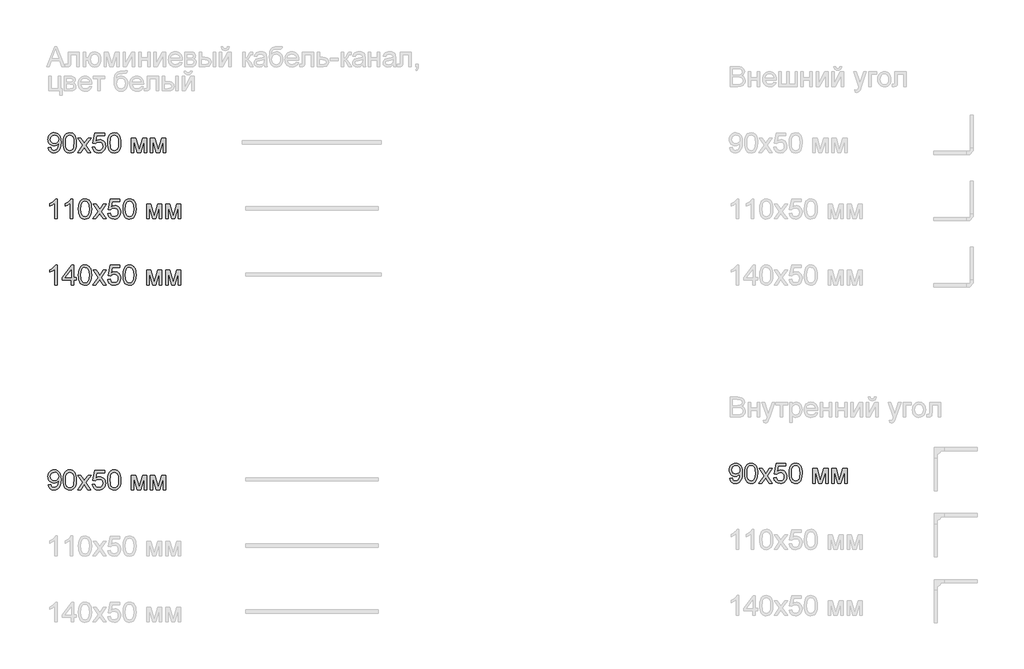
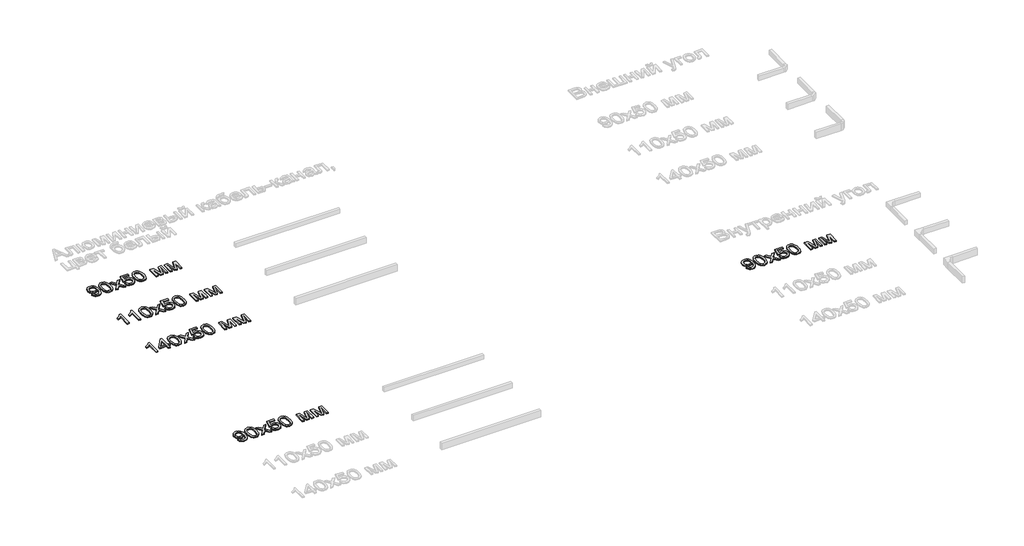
# One storey, part 87 of 168: 5 proxies.
"""IFC4 building model written with IfcOpenShell, lengths in millimetres."""

from ifc_helpers import new_model, si_unit, origin, origin_with_axes, place, context, project, spatial, polyline, outline, extrude, element, save

model = new_model("IFC4")

# Units and contexts
model_context = context("Model", 3, world=origin())
ifc_project = project(units=[si_unit("LENGTHUNIT", "METRE", prefix="MILLI")], contexts=[model_context])

# Site, building, storey
site = spatial("IfcSite", under=ifc_project)
building = spatial("IfcBuilding", under=site)
storey = spatial("IfcBuildingStorey", under=building, Name="Этаж 01", Elevation=0.0)

# Proxies
placement = place(None, origin())
element("IfcBuildingElementProxy", 1, Name="300 мм Arial 2", ObjectType="300 мм Arial 2", at=placement, inside=storey, context=model_context, shape_type="SweptSolid", body=[
    extrude(outline(polyline([(769.3999525, -8073.063449), (807.0710688, -8068.3545594), (813.5090037, -8089.7377004), (823.9936406, -8104.2966303), (838.267462, -8112.6567487), (856.0729505, -8115.4434548), (872.0482262, -8113.6500301), (886.5703679, -8108.2697559), (898.6368974, -8099.8912435), (907.2453361, -8089.1031039), (919.5693829, -8056.3616064), (925.0140364, -8012.6572253), (924.7933072, -8005.2995854), (911.7426935, -8021.2288758), (894.6637718, -8033.8472283), (874.7889471, -8042.0693909), (853.3506238, -8044.8101117), (835.455464, -8043.1362486), (818.9996425, -8038.1146594), (803.9831593, -8029.745344), (790.4060144, -8018.0283025), (779.1557231, -8003.5751386), (771.1198008, -7986.9974562), (766.2982474, -7968.2952553), (764.6910629, -7947.4685358), (766.3764223, -7925.9474391), (771.4325005, -7906.6336343), (779.8592975, -7889.5271216), (791.6568132, -7874.6279008), (805.9927147, -7862.5567728), (822.0346689, -7853.9345385), (839.782676, -7848.761198), (859.2367357, -7847.0367511), (887.3337231, -7850.9730885), (912.9107188, -7862.7821005), (934.3030568, -7881.8751761), (949.8460711, -7907.6637039), (959.3098354, -7943.3114693), (962.4644236, -7991.9822572), (959.3190325, -8043.5869041), (949.8828593, -8083.4745094), (934.2386775, -8113.447695), (912.4692604, -8135.3090825), (885.5127072, -8148.663199), (854.307117, -8153.1145711), (822.0990483, -8147.8630556), (796.4024909, -8132.1085092), (778.4314555, -8106.8442132), (769.3999525, -8073.063449)]), holes=[polyline([(924.7933072, -7946.585619), (920.7282112, -7921.0546085), (908.5329231, -7901.40971), (889.6053944, -7888.8833281), (865.3435768, -7884.7078674), (840.1804484, -7889.2052248), (820.020515, -7902.697297), (806.7767632, -7923.344674), (802.3621793, -7949.3079458), (806.5376399, -7972.585679), (819.0640218, -7991.0625522), (838.7273145, -8003.1198846), (864.3135072, -8007.1389954), (888.3821868, -8003.1198846), (907.7603709, -7991.0625522), (920.5350732, -7971.9050973), (924.7933072, -7946.585619)])]), origin_with_axes(), (0.0, 0.0, 1.0), 20.0),
    extrude(outline(polyline([(995.4266503, -8000.1492375), (998.1949623, -7951.9107109), (1006.4998984, -7913.4394512), (1020.258685, -7884.1468474), (1039.3885487, -7863.4442881), (1064.0274454, -7851.1386354), (1094.3133306, -7847.0367511), (1117.5266845, -7849.4647723), (1138.3120172, -7856.7488358), (1155.6944415, -7868.6038331), (1168.6990701, -7884.7446556), (1178.5215193, -7905.0333477), (1186.3574058, -7929.3319534), (1191.4893597, -7960.1880558), (1193.2000109, -8000.1492375), (1190.4592901, -8048.1118526), (1182.2371275, -8086.4911418), (1168.5611143, -8115.8113368), (1149.4588417, -8136.5966695), (1124.7647628, -8148.9850957), (1094.3133306, -8153.1145711), (1073.5647861, -8151.3211464), (1055.1706863, -8145.9408722), (1039.1310313, -8136.9737486), (1025.4458211, -8124.4197755), (1012.3124339, -8101.7260549), (1002.931443, -8073.4497251), (997.3028485, -8039.5907859), (995.4266503, -8000.1492375)]), holes=[polyline([(1033.0977666, -8000.0756611), (1037.5123506, -8059.3322535), (1043.0305805, -8079.6002522), (1050.7561024, -8093.6280525), (1070.4745773, -8109.9896042), (1094.3133306, -8115.4434548), (1118.1520839, -8109.9712101), (1137.8705589, -8093.5544761), (1145.5960808, -8079.5036831), (1151.1143107, -8059.240283), (1155.5288946, -8000.0756611), (1151.2614635, -7942.152641), (1145.9271745, -7921.9513209), (1138.45917, -7907.5901275), (1118.7774833, -7890.4284325), (1093.8718722, -7884.7078674), (1070.2906363, -7889.7478508), (1051.3447136, -7904.8678008), (1043.3616743, -7920.5027856), (1037.6595034, -7941.5824239), (1033.0977666, -8000.0756611)])]), origin_with_axes(), (0.0, 0.0, 1.0), 20.0),
    extrude(outline(polyline([(1212.0355691, -8148.4056816), (1292.5281496, -8037.1581662), (1216.7444586, -7927.0878733), (1262.0675204, -7927.0878733), (1298.6349907, -7980.0628806), (1315.7047153, -8005.0788562), (1330.4935715, -7984.6246173), (1372.1378134, -7927.0878733), (1417.4608752, -7927.0878733), (1337.8512114, -8037.1581662), (1414.5178192, -8148.4056816), (1369.1947574, -8148.4056816), (1323.0623552, -8081.5247348), (1314.6010693, -8069.3110526), (1257.3586309, -8148.4056816), (1212.0355691, -8148.4056816)])), origin_with_axes(), (0.0, 0.0, 1.0), 20.0),
    extrude(outline(polyline([(1438.0622669, -8068.3545594), (1475.7333832, -8063.6456699), (1482.6495647, -8086.2612155), (1494.7160942, -8102.4572204), (1511.8777893, -8112.1968962), (1534.0794677, -8115.4434548), (1561.0820061, -8110.9277033), (1581.3155158, -8097.3804488), (1593.9522624, -8076.3651899), (1598.1645112, -8049.4454249), (1594.2189768, -8024.0983554), (1582.3823736, -8004.7109743), (1562.5627311, -7992.4053215), (1534.6680789, -7988.3034373), (1516.3935407, -7989.9405121), (1501.5954875, -7994.8517368), (1480.4422728, -8011.847885), (1442.7711565, -8007.1389954), (1475.7333832, -7851.7456407), (1621.7089589, -7851.7456407), (1621.7089589, -7889.416757), (1506.1940124, -7889.416757), (1490.080781, -7972.4109351), (1516.991349, -7956.0769745), (1545.1895039, -7950.632321), (1563.5353192, -7952.3199796), (1580.3866138, -7957.3829556), (1595.7433878, -7965.8212488), (1609.6056413, -7977.6348594), (1621.0812603, -7992.1018189), (1629.278131, -8008.5001588), (1634.1962534, -8026.8298792), (1635.8356275, -8047.0909801), (1629.9311215, -8084.7620964), (1622.550489, -8101.5559095), (1612.2176034, -8116.9885592), (1596.5642245, -8132.7936894), (1578.2988835, -8144.0830681), (1557.4215803, -8150.8566954), (1533.9323149, -8153.1145711), (1496.9325832, -8147.3112326), (1481.2539124, -8140.0570595), (1467.4560383, -8129.9012172), (1455.9758208, -8117.3495434), (1447.2501197, -8102.9078758), (1438.0622669, -8068.3545594)])), origin_with_axes(), (0.0, 0.0, 1.0), 20.0),
    extrude(outline(polyline([(1668.7978543, -8000.1492375), (1671.5661663, -7951.9107109), (1679.8711023, -7913.4394512), (1693.629889, -7884.1468474), (1712.7597527, -7863.4442881), (1737.3986493, -7851.1386354), (1767.6845346, -7847.0367511), (1790.8978885, -7849.4647723), (1811.6832212, -7856.7488358), (1829.0656455, -7868.6038331), (1842.070274, -7884.7446556), (1851.8927233, -7905.0333477), (1859.7286098, -7929.3319534), (1864.8605636, -7960.1880558), (1866.5712149, -8000.1492375), (1863.830494, -8048.1118526), (1855.6083314, -8086.4911418), (1841.9323183, -8115.8113368), (1822.8300457, -8136.5966695), (1798.1359667, -8148.9850957), (1767.6845346, -8153.1145711), (1746.9359901, -8151.3211464), (1728.5418903, -8145.9408722), (1712.5022353, -8136.9737486), (1698.8170251, -8124.4197755), (1685.6836379, -8101.7260549), (1676.302647, -8073.4497251), (1670.6740525, -8039.5907859), (1668.7978543, -8000.1492375)]), holes=[polyline([(1706.4689706, -8000.0756611), (1710.8835545, -8059.3322535), (1716.4017845, -8079.6002522), (1724.1273064, -8093.6280525), (1743.8457813, -8109.9896042), (1767.6845346, -8115.4434548), (1791.5232879, -8109.9712101), (1811.2417628, -8093.5544761), (1818.9672847, -8079.5036831), (1824.4855147, -8059.240283), (1828.9000986, -8000.0756611), (1824.6326675, -7942.152641), (1819.2983785, -7921.9513209), (1811.830374, -7907.5901275), (1792.1486873, -7890.4284325), (1767.2430762, -7884.7078674), (1743.6618403, -7889.7478508), (1724.7159176, -7904.8678008), (1716.7328783, -7920.5027856), (1711.0307073, -7941.5824239), (1706.4689706, -8000.0756611)])]), origin_with_axes(), (0.0, 0.0, 1.0), 20.0),
    extrude(outline(polyline([(2026.6734592, -7927.0878733), (2091.4942668, -7927.0878733), (2141.4526417, -8104.2598421), (2195.3105658, -7927.0878733), (2257.4090466, -7927.0878733), (2257.4090466, -8148.4056816), (2219.7379303, -8148.4056816), (2219.7379303, -7970.2036431), (2165.5857006, -8148.4056816), (2116.1423604, -8148.4056816), (2064.3445755, -7961.6687808), (2064.3445755, -8148.4056816), (2026.6734592, -8148.4056816), (2026.6734592, -7927.0878733)])), origin_with_axes(), (0.0, 0.0, 1.0), 20.0),
    extrude(outline(polyline([(2313.915721, -7927.0878733), (2378.7365286, -7927.0878733), (2428.6949035, -8104.2598421), (2482.5528276, -7927.0878733), (2544.6513084, -7927.0878733), (2544.6513084, -8148.4056816), (2506.9801921, -8148.4056816), (2506.9801921, -7970.2036431), (2452.8279624, -8148.4056816), (2403.3846223, -8148.4056816), (2351.5868373, -7961.6687808), (2351.5868373, -8148.4056816), (2313.915721, -8148.4056816), (2313.915721, -7927.0878733)])), origin_with_axes(), (0.0, 0.0, 1.0), 20.0),
])
element("IfcBuildingElementProxy", 2, Name="300 мм Arial 2", ObjectType="300 мм Arial 2", at=placement, inside=storey, context=model_context, shape_type="SweptSolid", body=[
    extrude(outline(polyline([(905.9577491, -9148.4056816), (868.2866328, -9148.4056816), (868.2866328, -8913.5498158), (832.6020793, -8938.9704617), (792.9444002, -8957.9899609), (792.9444002, -8922.3789837), (822.5313096, -8906.2841464), (848.1634877, -8887.1358886), (868.3694062, -8866.7736202), (881.6775374, -8847.0367511), (905.9577491, -8847.0367511), (905.9577491, -9148.4056816)])), origin_with_axes(), (0.0, 0.0, 1.0), 20.0),
    extrude(outline(polyline([(1136.6933365, -9148.4056816), (1099.0222202, -9148.4056816), (1099.0222202, -8913.5498158), (1063.3376666, -8938.9704617), (1023.6799876, -8957.9899609), (1023.6799876, -8922.3789837), (1053.266897, -8906.2841464), (1078.899075, -8887.1358886), (1099.1049936, -8866.7736202), (1112.4131248, -8847.0367511), (1136.6933365, -8847.0367511), (1136.6933365, -9148.4056816)])), origin_with_axes(), (0.0, 0.0, 1.0), 20.0),
    extrude(outline(polyline([(1226.1622377, -9000.1492375), (1228.9305497, -8951.9107109), (1237.2354858, -8913.4394512), (1250.9942724, -8884.1468474), (1270.1241361, -8863.4442881), (1294.7630327, -8851.1386354), (1325.048918, -8847.0367511), (1348.2622719, -8849.4647723), (1369.0476046, -8856.7488358), (1386.4300289, -8868.6038331), (1399.4346574, -8884.7446556), (1409.2571067, -8905.0333477), (1417.0929932, -8929.3319534), (1422.224947, -8960.1880558), (1423.9355983, -9000.1492375), (1421.1948774, -9048.1118526), (1412.9727148, -9086.4911418), (1399.2967017, -9115.8113368), (1380.1944291, -9136.5966695), (1355.5003502, -9148.9850957), (1325.048918, -9153.1145711), (1304.3003735, -9151.3211464), (1285.9062737, -9145.9408722), (1269.8666187, -9136.9737486), (1256.1814085, -9124.4197755), (1243.0480213, -9101.7260549), (1233.6670304, -9073.4497251), (1228.0384359, -9039.5907859), (1226.1622377, -9000.1492375)]), holes=[polyline([(1263.833354, -9000.0756611), (1268.2479379, -9059.3322535), (1273.7661679, -9079.6002522), (1281.4916898, -9093.6280525), (1301.2101647, -9109.9896042), (1325.048918, -9115.4434548), (1348.8876713, -9109.9712101), (1368.6061462, -9093.5544761), (1376.3316681, -9079.5036831), (1381.8498981, -9059.240283), (1386.264482, -9000.0756611), (1381.9970509, -8942.152641), (1376.6627619, -8921.9513209), (1369.1947574, -8907.5901275), (1349.5130707, -8890.4284325), (1324.6074596, -8884.7078674), (1301.0262237, -8889.7478508), (1282.080301, -8904.8678008), (1274.0972617, -8920.5027856), (1268.3950907, -8941.5824239), (1263.833354, -9000.0756611)])]), origin_with_axes(), (0.0, 0.0, 1.0), 20.0),
    extrude(outline(polyline([(1442.7711565, -9148.4056816), (1523.263737, -9037.1581662), (1447.480046, -8927.0878733), (1492.8031078, -8927.0878733), (1529.3705781, -8980.0628806), (1546.4403027, -9005.0788562), (1561.2291589, -8984.6246173), (1602.8734008, -8927.0878733), (1648.1964626, -8927.0878733), (1568.5867988, -9037.1581662), (1645.2534066, -9148.4056816), (1599.9303448, -9148.4056816), (1553.7979426, -9081.5247348), (1545.3366567, -9069.3110526), (1488.0942183, -9148.4056816), (1442.7711565, -9148.4056816)])), origin_with_axes(), (0.0, 0.0, 1.0), 20.0),
    extrude(outline(polyline([(1668.7978543, -9068.3545594), (1706.4689706, -9063.6456699), (1713.3851521, -9086.2612155), (1725.4516816, -9102.4572204), (1742.6133766, -9112.1968962), (1764.815055, -9115.4434548), (1791.8175935, -9110.9277033), (1812.0511032, -9097.3804488), (1824.6878498, -9076.3651899), (1828.9000986, -9049.4454249), (1824.9545642, -9024.0983554), (1813.117961, -9004.7109743), (1793.2983185, -8992.4053215), (1765.4036662, -8988.3034373), (1747.1291281, -8989.9405121), (1732.3310749, -8994.8517368), (1711.1778601, -9011.847885), (1673.5067438, -9007.1389954), (1706.4689706, -8851.7456407), (1852.4445463, -8851.7456407), (1852.4445463, -8889.416757), (1736.9295998, -8889.416757), (1720.8163684, -8972.4109351), (1747.7269364, -8956.0769745), (1775.9250913, -8950.632321), (1794.2709065, -8952.3199796), (1811.1222012, -8957.3829556), (1826.4789752, -8965.8212488), (1840.3412286, -8977.6348594), (1851.8168476, -8992.1018189), (1860.0137183, -9008.5001588), (1864.9318408, -9026.8298792), (1866.5712149, -9047.0909801), (1860.6667089, -9084.7620964), (1853.2860764, -9101.5559095), (1842.9531908, -9116.9885592), (1827.2998119, -9132.7936894), (1809.0344709, -9144.0830681), (1788.1571676, -9150.8566954), (1764.6679022, -9153.1145711), (1727.6681706, -9147.3112326), (1711.9894998, -9140.0570595), (1698.1916257, -9129.9012172), (1686.7114082, -9117.3495434), (1677.9857071, -9102.9078758), (1668.7978543, -9068.3545594)])), origin_with_axes(), (0.0, 0.0, 1.0), 20.0),
    extrude(outline(polyline([(1899.5334417, -9000.1492375), (1902.3017537, -8951.9107109), (1910.6066897, -8913.4394512), (1924.3654763, -8884.1468474), (1943.4953401, -8863.4442881), (1968.1342367, -8851.1386354), (1998.420122, -8847.0367511), (2021.6334759, -8849.4647723), (2042.4188086, -8856.7488358), (2059.8012329, -8868.6038331), (2072.8058614, -8884.7446556), (2082.6283107, -8905.0333477), (2090.4641972, -8929.3319534), (2095.596151, -8960.1880558), (2097.3068023, -9000.1492375), (2094.5660814, -9048.1118526), (2086.3439188, -9086.4911418), (2072.6679056, -9115.8113368), (2053.565633, -9136.5966695), (2028.8715541, -9148.9850957), (1998.420122, -9153.1145711), (1977.6715774, -9151.3211464), (1959.2774777, -9145.9408722), (1943.2378227, -9136.9737486), (1929.5526125, -9124.4197755), (1916.4192252, -9101.7260549), (1907.0382344, -9073.4497251), (1901.4096398, -9039.5907859), (1899.5334417, -9000.1492375)]), holes=[polyline([(1937.204558, -9000.0756611), (1941.6191419, -9059.3322535), (1947.1373718, -9079.6002522), (1954.8628937, -9093.6280525), (1974.5813687, -9109.9896042), (1998.420122, -9115.4434548), (2022.2588753, -9109.9712101), (2041.9773502, -9093.5544761), (2049.7028721, -9079.5036831), (2055.221102, -9059.240283), (2059.635686, -9000.0756611), (2055.3682548, -8942.152641), (2050.0339659, -8921.9513209), (2042.5659614, -8907.5901275), (2022.8842747, -8890.4284325), (1997.9786636, -8884.7078674), (1974.3974277, -8889.7478508), (1955.4515049, -8904.8678008), (1947.4684656, -8920.5027856), (1941.7662947, -8941.5824239), (1937.204558, -9000.0756611)])]), origin_with_axes(), (0.0, 0.0, 1.0), 20.0),
    extrude(outline(polyline([(2257.4090466, -8927.0878733), (2322.2298541, -8927.0878733), (2372.1882291, -9104.2598421), (2426.0461532, -8927.0878733), (2488.144634, -8927.0878733), (2488.144634, -9148.4056816), (2450.4735176, -9148.4056816), (2450.4735176, -8970.2036431), (2396.321288, -9148.4056816), (2346.8779478, -9148.4056816), (2295.0801629, -8961.6687808), (2295.0801629, -9148.4056816), (2257.4090466, -9148.4056816), (2257.4090466, -8927.0878733)])), origin_with_axes(), (0.0, 0.0, 1.0), 20.0),
    extrude(outline(polyline([(2544.6513084, -8927.0878733), (2609.472116, -8927.0878733), (2659.4304909, -9104.2598421), (2713.288415, -8927.0878733), (2775.3868958, -8927.0878733), (2775.3868958, -9148.4056816), (2737.7157795, -9148.4056816), (2737.7157795, -8970.2036431), (2683.5635498, -9148.4056816), (2634.1202096, -9148.4056816), (2582.3224247, -8961.6687808), (2582.3224247, -9148.4056816), (2544.6513084, -9148.4056816), (2544.6513084, -8927.0878733)])), origin_with_axes(), (0.0, 0.0, 1.0), 20.0),
])
element("IfcBuildingElementProxy", 3, Name="300 мм Arial 2", ObjectType="300 мм Arial 2", at=placement, inside=storey, context=model_context, shape_type="SweptSolid", body=[
    extrude(outline(polyline([(905.9577491, -10148.4056816), (868.2866328, -10148.4056816), (868.2866328, -9913.5498158), (832.6020793, -9938.9704617), (792.9444002, -9957.9899609), (792.9444002, -9922.3789837), (822.5313096, -9906.2841464), (848.1634877, -9887.1358886), (868.3694062, -9866.7736202), (881.6775374, -9847.0367511), (905.9577491, -9847.0367511), (905.9577491, -10148.4056816)])), origin_with_axes(), (0.0, 0.0, 1.0), 20.0),
    extrude(outline(polyline([(1117.8577783, -10148.4056816), (1117.8577783, -10077.7723385), (981.2999817, -10077.7723385), (981.2999817, -10040.1012222), (1127.2755574, -9851.7456407), (1155.5288946, -9851.7456407), (1155.5288946, -10040.1012222), (1193.2000109, -10040.1012222), (1193.2000109, -10077.7723385), (1155.5288946, -10077.7723385), (1155.5288946, -10148.4056816), (1117.8577783, -10148.4056816)]), holes=[polyline([(1117.8577783, -10040.1012222), (1117.8577783, -9923.7033589), (1027.6531131, -10040.1012222), (1117.8577783, -10040.1012222)])]), origin_with_axes(), (0.0, 0.0, 1.0), 20.0),
    extrude(outline(polyline([(1226.1622377, -10000.1492375), (1228.9305497, -9951.9107109), (1237.2354858, -9913.4394512), (1250.9942724, -9884.1468474), (1270.1241361, -9863.4442881), (1294.7630327, -9851.1386354), (1325.048918, -9847.0367511), (1348.2622719, -9849.4647723), (1369.0476046, -9856.7488358), (1386.4300289, -9868.6038331), (1399.4346574, -9884.7446556), (1409.2571067, -9905.0333477), (1417.0929932, -9929.3319534), (1422.224947, -9960.1880558), (1423.9355983, -10000.1492375), (1421.1948774, -10048.1118526), (1412.9727148, -10086.4911418), (1399.2967017, -10115.8113368), (1380.1944291, -10136.5966695), (1355.5003502, -10148.9850957), (1325.048918, -10153.1145711), (1304.3003735, -10151.3211464), (1285.9062737, -10145.9408722), (1269.8666187, -10136.9737486), (1256.1814085, -10124.4197755), (1243.0480213, -10101.7260549), (1233.6670304, -10073.4497251), (1228.0384359, -10039.5907859), (1226.1622377, -10000.1492375)]), holes=[polyline([(1263.833354, -10000.0756611), (1268.2479379, -10059.3322535), (1273.7661679, -10079.6002522), (1281.4916898, -10093.6280525), (1301.2101647, -10109.9896042), (1325.048918, -10115.4434548), (1348.8876713, -10109.9712101), (1368.6061462, -10093.5544761), (1376.3316681, -10079.5036831), (1381.8498981, -10059.240283), (1386.264482, -10000.0756611), (1381.9970509, -9942.152641), (1376.6627619, -9921.9513209), (1369.1947574, -9907.5901275), (1349.5130707, -9890.4284325), (1324.6074596, -9884.7078674), (1301.0262237, -9889.7478508), (1282.080301, -9904.8678008), (1274.0972617, -9920.5027856), (1268.3950907, -9941.5824239), (1263.833354, -10000.0756611)])]), origin_with_axes(), (0.0, 0.0, 1.0), 20.0),
    extrude(outline(polyline([(1442.7711565, -10148.4056816), (1523.263737, -10037.1581662), (1447.480046, -9927.0878733), (1492.8031078, -9927.0878733), (1529.3705781, -9980.0628806), (1546.4403027, -10005.0788562), (1561.2291589, -9984.6246173), (1602.8734008, -9927.0878733), (1648.1964626, -9927.0878733), (1568.5867988, -10037.1581662), (1645.2534066, -10148.4056816), (1599.9303448, -10148.4056816), (1553.7979426, -10081.5247348), (1545.3366567, -10069.3110526), (1488.0942183, -10148.4056816), (1442.7711565, -10148.4056816)])), origin_with_axes(), (0.0, 0.0, 1.0), 20.0),
    extrude(outline(polyline([(1668.7978543, -10068.3545594), (1706.4689706, -10063.6456699), (1713.3851521, -10086.2612155), (1725.4516816, -10102.4572204), (1742.6133766, -10112.1968962), (1764.815055, -10115.4434548), (1791.8175935, -10110.9277033), (1812.0511032, -10097.3804488), (1824.6878498, -10076.3651899), (1828.9000986, -10049.4454249), (1824.9545642, -10024.0983554), (1813.117961, -10004.7109743), (1793.2983185, -9992.4053215), (1765.4036662, -9988.3034373), (1747.1291281, -9989.9405121), (1732.3310749, -9994.8517368), (1711.1778601, -10011.847885), (1673.5067438, -10007.1389954), (1706.4689706, -9851.7456407), (1852.4445463, -9851.7456407), (1852.4445463, -9889.416757), (1736.9295998, -9889.416757), (1720.8163684, -9972.4109351), (1747.7269364, -9956.0769745), (1775.9250913, -9950.632321), (1794.2709065, -9952.3199796), (1811.1222012, -9957.3829556), (1826.4789752, -9965.8212488), (1840.3412286, -9977.6348594), (1851.8168476, -9992.1018189), (1860.0137183, -10008.5001588), (1864.9318408, -10026.8298792), (1866.5712149, -10047.0909801), (1860.6667089, -10084.7620964), (1853.2860764, -10101.5559095), (1842.9531908, -10116.9885592), (1827.2998119, -10132.7936894), (1809.0344709, -10144.0830681), (1788.1571676, -10150.8566954), (1764.6679022, -10153.1145711), (1727.6681706, -10147.3112326), (1711.9894998, -10140.0570595), (1698.1916257, -10129.9012172), (1686.7114082, -10117.3495434), (1677.9857071, -10102.9078758), (1668.7978543, -10068.3545594)])), origin_with_axes(), (0.0, 0.0, 1.0), 20.0),
    extrude(outline(polyline([(1899.5334417, -10000.1492375), (1902.3017537, -9951.9107109), (1910.6066897, -9913.4394512), (1924.3654763, -9884.1468474), (1943.4953401, -9863.4442881), (1968.1342367, -9851.1386354), (1998.420122, -9847.0367511), (2021.6334759, -9849.4647723), (2042.4188086, -9856.7488358), (2059.8012329, -9868.6038331), (2072.8058614, -9884.7446556), (2082.6283107, -9905.0333477), (2090.4641972, -9929.3319534), (2095.596151, -9960.1880558), (2097.3068023, -10000.1492375), (2094.5660814, -10048.1118526), (2086.3439188, -10086.4911418), (2072.6679056, -10115.8113368), (2053.565633, -10136.5966695), (2028.8715541, -10148.9850957), (1998.420122, -10153.1145711), (1977.6715774, -10151.3211464), (1959.2774777, -10145.9408722), (1943.2378227, -10136.9737486), (1929.5526125, -10124.4197755), (1916.4192252, -10101.7260549), (1907.0382344, -10073.4497251), (1901.4096398, -10039.5907859), (1899.5334417, -10000.1492375)]), holes=[polyline([(1937.204558, -10000.0756611), (1941.6191419, -10059.3322535), (1947.1373718, -10079.6002522), (1954.8628937, -10093.6280525), (1974.5813687, -10109.9896042), (1998.420122, -10115.4434548), (2022.2588753, -10109.9712101), (2041.9773502, -10093.5544761), (2049.7028721, -10079.5036831), (2055.221102, -10059.240283), (2059.635686, -10000.0756611), (2055.3682548, -9942.152641), (2050.0339659, -9921.9513209), (2042.5659614, -9907.5901275), (2022.8842747, -9890.4284325), (1997.9786636, -9884.7078674), (1974.3974277, -9889.7478508), (1955.4515049, -9904.8678008), (1947.4684656, -9920.5027856), (1941.7662947, -9941.5824239), (1937.204558, -10000.0756611)])]), origin_with_axes(), (0.0, 0.0, 1.0), 20.0),
    extrude(outline(polyline([(2257.4090466, -9927.0878733), (2322.2298541, -9927.0878733), (2372.1882291, -10104.2598421), (2426.0461532, -9927.0878733), (2488.144634, -9927.0878733), (2488.144634, -10148.4056816), (2450.4735176, -10148.4056816), (2450.4735176, -9970.2036431), (2396.321288, -10148.4056816), (2346.8779478, -10148.4056816), (2295.0801629, -9961.6687808), (2295.0801629, -10148.4056816), (2257.4090466, -10148.4056816), (2257.4090466, -9927.0878733)])), origin_with_axes(), (0.0, 0.0, 1.0), 20.0),
    extrude(outline(polyline([(2544.6513084, -9927.0878733), (2609.472116, -9927.0878733), (2659.4304909, -10104.2598421), (2713.288415, -9927.0878733), (2775.3868958, -9927.0878733), (2775.3868958, -10148.4056816), (2737.7157795, -10148.4056816), (2737.7157795, -9970.2036431), (2683.5635498, -10148.4056816), (2634.1202096, -10148.4056816), (2582.3224247, -9961.6687808), (2582.3224247, -10148.4056816), (2544.6513084, -10148.4056816), (2544.6513084, -9927.0878733)])), origin_with_axes(), (0.0, 0.0, 1.0), 20.0),
])
element("IfcBuildingElementProxy", 4, Name="300 мм Arial 2", ObjectType="300 мм Arial 2", at=placement, inside=storey, context=model_context, shape_type="SweptSolid", body=[
    extrude(outline(polyline([(769.3999525, -13173.063449), (807.0710688, -13168.3545594), (813.5090037, -13189.7377004), (823.9936406, -13204.2966303), (838.267462, -13212.6567487), (856.0729505, -13215.4434548), (872.0482262, -13213.6500301), (886.5703679, -13208.2697559), (898.6368974, -13199.8912435), (907.2453361, -13189.1031039), (919.5693829, -13156.3616064), (925.0140364, -13112.6572253), (924.7933072, -13105.2995854), (911.7426935, -13121.2288758), (894.6637718, -13133.8472283), (874.7889471, -13142.0693909), (853.3506238, -13144.8101117), (835.455464, -13143.1362486), (818.9996425, -13138.1146594), (803.9831593, -13129.745344), (790.4060144, -13118.0283025), (779.1557231, -13103.5751386), (771.1198008, -13086.9974562), (766.2982474, -13068.2952553), (764.6910629, -13047.4685358), (766.3764223, -13025.9474391), (771.4325005, -13006.6336343), (779.8592975, -12989.5271216), (791.6568132, -12974.6279008), (805.9927147, -12962.5567728), (822.0346689, -12953.9345385), (839.782676, -12948.761198), (859.2367357, -12947.0367511), (887.3337231, -12950.9730885), (912.9107188, -12962.7821005), (934.3030568, -12981.8751761), (949.8460711, -13007.6637039), (959.3098354, -13043.3114693), (962.4644236, -13091.9822572), (959.3190325, -13143.5869041), (949.8828593, -13183.4745094), (934.2386775, -13213.447695), (912.4692604, -13235.3090825), (885.5127072, -13248.663199), (854.307117, -13253.1145711), (822.0990483, -13247.8630556), (796.4024909, -13232.1085092), (778.4314555, -13206.8442132), (769.3999525, -13173.063449)]), holes=[polyline([(924.7933072, -13046.585619), (920.7282112, -13021.0546085), (908.5329231, -13001.40971), (889.6053944, -12988.8833281), (865.3435768, -12984.7078674), (840.1804484, -12989.2052248), (820.020515, -13002.697297), (806.7767632, -13023.344674), (802.3621793, -13049.3079458), (806.5376399, -13072.585679), (819.0640218, -13091.0625522), (838.7273145, -13103.1198846), (864.3135072, -13107.1389954), (888.3821868, -13103.1198846), (907.7603709, -13091.0625522), (920.5350732, -13071.9050973), (924.7933072, -13046.585619)])]), origin_with_axes(), (0.0, 0.0, 1.0), 20.0),
    extrude(outline(polyline([(995.4266503, -13100.1492375), (998.1949623, -13051.9107109), (1006.4998984, -13013.4394512), (1020.258685, -12984.1468474), (1039.3885487, -12963.4442881), (1064.0274454, -12951.1386354), (1094.3133306, -12947.0367511), (1117.5266845, -12949.4647723), (1138.3120172, -12956.7488358), (1155.6944415, -12968.6038331), (1168.6990701, -12984.7446556), (1178.5215193, -13005.0333477), (1186.3574058, -13029.3319534), (1191.4893597, -13060.1880558), (1193.2000109, -13100.1492375), (1190.4592901, -13148.1118526), (1182.2371275, -13186.4911418), (1168.5611143, -13215.8113368), (1149.4588417, -13236.5966695), (1124.7647628, -13248.9850957), (1094.3133306, -13253.1145711), (1073.5647861, -13251.3211464), (1055.1706863, -13245.9408722), (1039.1310313, -13236.9737486), (1025.4458211, -13224.4197755), (1012.3124339, -13201.7260549), (1002.931443, -13173.4497251), (997.3028485, -13139.5907859), (995.4266503, -13100.1492375)]), holes=[polyline([(1033.0977666, -13100.0756611), (1037.5123506, -13159.3322535), (1043.0305805, -13179.6002522), (1050.7561024, -13193.6280525), (1070.4745773, -13209.9896042), (1094.3133306, -13215.4434548), (1118.1520839, -13209.9712101), (1137.8705589, -13193.5544761), (1145.5960808, -13179.5036831), (1151.1143107, -13159.240283), (1155.5288946, -13100.0756611), (1151.2614635, -13042.152641), (1145.9271745, -13021.9513209), (1138.45917, -13007.5901275), (1118.7774833, -12990.4284325), (1093.8718722, -12984.7078674), (1070.2906363, -12989.7478508), (1051.3447136, -13004.8678008), (1043.3616743, -13020.5027856), (1037.6595034, -13041.5824239), (1033.0977666, -13100.0756611)])]), origin_with_axes(), (0.0, 0.0, 1.0), 20.0),
    extrude(outline(polyline([(1212.0355691, -13248.4056816), (1292.5281496, -13137.1581662), (1216.7444586, -13027.0878733), (1262.0675204, -13027.0878733), (1298.6349907, -13080.0628806), (1315.7047153, -13105.0788562), (1330.4935715, -13084.6246173), (1372.1378134, -13027.0878733), (1417.4608752, -13027.0878733), (1337.8512114, -13137.1581662), (1414.5178192, -13248.4056816), (1369.1947574, -13248.4056816), (1323.0623552, -13181.5247348), (1314.6010693, -13169.3110526), (1257.3586309, -13248.4056816), (1212.0355691, -13248.4056816)])), origin_with_axes(), (0.0, 0.0, 1.0), 20.0),
    extrude(outline(polyline([(1438.0622669, -13168.3545594), (1475.7333832, -13163.6456699), (1482.6495647, -13186.2612155), (1494.7160942, -13202.4572204), (1511.8777893, -13212.1968962), (1534.0794677, -13215.4434548), (1561.0820061, -13210.9277033), (1581.3155158, -13197.3804488), (1593.9522624, -13176.3651899), (1598.1645112, -13149.4454249), (1594.2189768, -13124.0983554), (1582.3823736, -13104.7109743), (1562.5627311, -13092.4053215), (1534.6680789, -13088.3034373), (1516.3935407, -13089.9405121), (1501.5954875, -13094.8517368), (1480.4422728, -13111.847885), (1442.7711565, -13107.1389954), (1475.7333832, -12951.7456407), (1621.7089589, -12951.7456407), (1621.7089589, -12989.416757), (1506.1940124, -12989.416757), (1490.080781, -13072.4109351), (1516.991349, -13056.0769745), (1545.1895039, -13050.632321), (1563.5353192, -13052.3199796), (1580.3866138, -13057.3829556), (1595.7433878, -13065.8212488), (1609.6056413, -13077.6348594), (1621.0812603, -13092.1018189), (1629.278131, -13108.5001588), (1634.1962534, -13126.8298792), (1635.8356275, -13147.0909801), (1629.9311215, -13184.7620964), (1622.550489, -13201.5559095), (1612.2176034, -13216.9885592), (1596.5642245, -13232.7936894), (1578.2988835, -13244.0830681), (1557.4215803, -13250.8566954), (1533.9323149, -13253.1145711), (1496.9325832, -13247.3112326), (1481.2539124, -13240.0570595), (1467.4560383, -13229.9012172), (1455.9758208, -13217.3495434), (1447.2501197, -13202.9078758), (1438.0622669, -13168.3545594)])), origin_with_axes(), (0.0, 0.0, 1.0), 20.0),
    extrude(outline(polyline([(1668.7978543, -13100.1492375), (1671.5661663, -13051.9107109), (1679.8711023, -13013.4394512), (1693.629889, -12984.1468474), (1712.7597527, -12963.4442881), (1737.3986493, -12951.1386354), (1767.6845346, -12947.0367511), (1790.8978885, -12949.4647723), (1811.6832212, -12956.7488358), (1829.0656455, -12968.6038331), (1842.070274, -12984.7446556), (1851.8927233, -13005.0333477), (1859.7286098, -13029.3319534), (1864.8605636, -13060.1880558), (1866.5712149, -13100.1492375), (1863.830494, -13148.1118526), (1855.6083314, -13186.4911418), (1841.9323183, -13215.8113368), (1822.8300457, -13236.5966695), (1798.1359667, -13248.9850957), (1767.6845346, -13253.1145711), (1746.9359901, -13251.3211464), (1728.5418903, -13245.9408722), (1712.5022353, -13236.9737486), (1698.8170251, -13224.4197755), (1685.6836379, -13201.7260549), (1676.302647, -13173.4497251), (1670.6740525, -13139.5907859), (1668.7978543, -13100.1492375)]), holes=[polyline([(1706.4689706, -13100.0756611), (1710.8835545, -13159.3322535), (1716.4017845, -13179.6002522), (1724.1273064, -13193.6280525), (1743.8457813, -13209.9896042), (1767.6845346, -13215.4434548), (1791.5232879, -13209.9712101), (1811.2417628, -13193.5544761), (1818.9672847, -13179.5036831), (1824.4855147, -13159.240283), (1828.9000986, -13100.0756611), (1824.6326675, -13042.152641), (1819.2983785, -13021.9513209), (1811.830374, -13007.5901275), (1792.1486873, -12990.4284325), (1767.2430762, -12984.7078674), (1743.6618403, -12989.7478508), (1724.7159176, -13004.8678008), (1716.7328783, -13020.5027856), (1711.0307073, -13041.5824239), (1706.4689706, -13100.0756611)])]), origin_with_axes(), (0.0, 0.0, 1.0), 20.0),
    extrude(outline(polyline([(2026.6734592, -13027.0878733), (2091.4942668, -13027.0878733), (2141.4526417, -13204.2598421), (2195.3105658, -13027.0878733), (2257.4090466, -13027.0878733), (2257.4090466, -13248.4056816), (2219.7379303, -13248.4056816), (2219.7379303, -13070.2036431), (2165.5857006, -13248.4056816), (2116.1423604, -13248.4056816), (2064.3445755, -13061.6687808), (2064.3445755, -13248.4056816), (2026.6734592, -13248.4056816), (2026.6734592, -13027.0878733)])), origin_with_axes(), (0.0, 0.0, 1.0), 20.0),
    extrude(outline(polyline([(2313.915721, -13027.0878733), (2378.7365286, -13027.0878733), (2428.6949035, -13204.2598421), (2482.5528276, -13027.0878733), (2544.6513084, -13027.0878733), (2544.6513084, -13248.4056816), (2506.9801921, -13248.4056816), (2506.9801921, -13070.2036431), (2452.8279624, -13248.4056816), (2403.3846223, -13248.4056816), (2351.5868373, -13061.6687808), (2351.5868373, -13248.4056816), (2313.915721, -13248.4056816), (2313.915721, -13027.0878733)])), origin_with_axes(), (0.0, 0.0, 1.0), 20.0),
])
element("IfcBuildingElementProxy", 5, Name="300 мм Arial 2", ObjectType="300 мм Arial 2", at=placement, inside=storey, context=model_context, shape_type="SweptSolid", body=[
    extrude(outline(polyline([(11069.3999525, -13073.063449), (11107.0710688, -13068.3545594), (11113.5090037, -13089.7377004), (11123.9936406, -13104.2966303), (11138.267462, -13112.6567487), (11156.0729505, -13115.4434548), (11172.0482262, -13113.6500301), (11186.5703679, -13108.2697559), (11198.6368974, -13099.8912435), (11207.2453361, -13089.1031039), (11219.5693829, -13056.3616064), (11225.0140364, -13012.6572253), (11224.7933072, -13005.2995854), (11211.7426935, -13021.2288758), (11194.6637718, -13033.8472283), (11174.7889471, -13042.0693909), (11153.3506238, -13044.8101117), (11135.455464, -13043.1362486), (11118.9996425, -13038.1146594), (11103.9831593, -13029.745344), (11090.4060144, -13018.0283025), (11079.1557231, -13003.5751386), (11071.1198008, -12986.9974562), (11066.2982474, -12968.2952553), (11064.6910629, -12947.4685358), (11066.3764223, -12925.9474391), (11071.4325005, -12906.6336343), (11079.8592975, -12889.5271216), (11091.6568132, -12874.6279008), (11105.9927147, -12862.5567728), (11122.0346689, -12853.9345385), (11139.782676, -12848.761198), (11159.2367357, -12847.0367511), (11187.3337231, -12850.9730885), (11212.9107188, -12862.7821005), (11234.3030568, -12881.8751761), (11249.8460711, -12907.6637039), (11259.3098354, -12943.3114693), (11262.4644236, -12991.9822572), (11259.3190325, -13043.5869041), (11249.8828593, -13083.4745094), (11234.2386775, -13113.447695), (11212.4692604, -13135.3090825), (11185.5127072, -13148.663199), (11154.307117, -13153.1145711), (11122.0990483, -13147.8630556), (11096.4024909, -13132.1085092), (11078.4314555, -13106.8442132), (11069.3999525, -13073.063449)]), holes=[polyline([(11224.7933072, -12946.585619), (11220.7282112, -12921.0546085), (11208.5329231, -12901.40971), (11189.6053944, -12888.8833281), (11165.3435768, -12884.7078674), (11140.1804484, -12889.2052248), (11120.020515, -12902.697297), (11106.7767632, -12923.344674), (11102.3621793, -12949.3079458), (11106.5376399, -12972.585679), (11119.0640218, -12991.0625522), (11138.7273145, -13003.1198846), (11164.3135072, -13007.1389954), (11188.3821868, -13003.1198846), (11207.7603709, -12991.0625522), (11220.5350732, -12971.9050973), (11224.7933072, -12946.585619)])]), origin_with_axes(), (0.0, 0.0, 1.0), 20.0),
    extrude(outline(polyline([(11295.4266503, -13000.1492375), (11298.1949623, -12951.9107109), (11306.4998984, -12913.4394512), (11320.258685, -12884.1468474), (11339.3885487, -12863.4442881), (11364.0274454, -12851.1386354), (11394.3133306, -12847.0367511), (11417.5266845, -12849.4647723), (11438.3120172, -12856.7488358), (11455.6944415, -12868.6038331), (11468.6990701, -12884.7446556), (11478.5215193, -12905.0333477), (11486.3574058, -12929.3319534), (11491.4893597, -12960.1880558), (11493.2000109, -13000.1492375), (11490.4592901, -13048.1118526), (11482.2371275, -13086.4911418), (11468.5611143, -13115.8113368), (11449.4588417, -13136.5966695), (11424.7647628, -13148.9850957), (11394.3133306, -13153.1145711), (11373.5647861, -13151.3211464), (11355.1706863, -13145.9408722), (11339.1310313, -13136.9737486), (11325.4458211, -13124.4197755), (11312.3124339, -13101.7260549), (11302.931443, -13073.4497251), (11297.3028485, -13039.5907859), (11295.4266503, -13000.1492375)]), holes=[polyline([(11333.0977666, -13000.0756611), (11337.5123506, -13059.3322535), (11343.0305805, -13079.6002522), (11350.7561024, -13093.6280525), (11370.4745773, -13109.9896042), (11394.3133306, -13115.4434548), (11418.1520839, -13109.9712101), (11437.8705589, -13093.5544761), (11445.5960808, -13079.5036831), (11451.1143107, -13059.240283), (11455.5288946, -13000.0756611), (11451.2614635, -12942.152641), (11445.9271745, -12921.9513209), (11438.45917, -12907.5901275), (11418.7774833, -12890.4284325), (11393.8718722, -12884.7078674), (11370.2906363, -12889.7478508), (11351.3447136, -12904.8678008), (11343.3616743, -12920.5027856), (11337.6595034, -12941.5824239), (11333.0977666, -13000.0756611)])]), origin_with_axes(), (0.0, 0.0, 1.0), 20.0),
    extrude(outline(polyline([(11512.0355691, -13148.4056816), (11592.5281496, -13037.1581662), (11516.7444586, -12927.0878733), (11562.0675204, -12927.0878733), (11598.6349907, -12980.0628806), (11615.7047153, -13005.0788562), (11630.4935715, -12984.6246173), (11672.1378134, -12927.0878733), (11717.4608752, -12927.0878733), (11637.8512114, -13037.1581662), (11714.5178192, -13148.4056816), (11669.1947574, -13148.4056816), (11623.0623552, -13081.5247348), (11614.6010693, -13069.3110526), (11557.3586309, -13148.4056816), (11512.0355691, -13148.4056816)])), origin_with_axes(), (0.0, 0.0, 1.0), 20.0),
    extrude(outline(polyline([(11738.0622669, -13068.3545594), (11775.7333832, -13063.6456699), (11782.6495647, -13086.2612155), (11794.7160942, -13102.4572204), (11811.8777893, -13112.1968962), (11834.0794677, -13115.4434548), (11861.0820061, -13110.9277033), (11881.3155158, -13097.3804488), (11893.9522624, -13076.3651899), (11898.1645112, -13049.4454249), (11894.2189768, -13024.0983554), (11882.3823736, -13004.7109743), (11862.5627311, -12992.4053215), (11834.6680789, -12988.3034373), (11816.3935407, -12989.9405121), (11801.5954875, -12994.8517368), (11780.4422728, -13011.847885), (11742.7711565, -13007.1389954), (11775.7333832, -12851.7456407), (11921.7089589, -12851.7456407), (11921.7089589, -12889.416757), (11806.1940124, -12889.416757), (11790.080781, -12972.4109351), (11816.991349, -12956.0769745), (11845.1895039, -12950.632321), (11863.5353192, -12952.3199796), (11880.3866138, -12957.3829556), (11895.7433878, -12965.8212488), (11909.6056413, -12977.6348594), (11921.0812603, -12992.1018189), (11929.278131, -13008.5001588), (11934.1962534, -13026.8298792), (11935.8356275, -13047.0909801), (11929.9311215, -13084.7620964), (11922.550489, -13101.5559095), (11912.2176034, -13116.9885592), (11896.5642245, -13132.7936894), (11878.2988835, -13144.0830681), (11857.4215803, -13150.8566954), (11833.9323149, -13153.1145711), (11796.9325832, -13147.3112326), (11781.2539124, -13140.0570595), (11767.4560383, -13129.9012172), (11755.9758208, -13117.3495434), (11747.2501197, -13102.9078758), (11738.0622669, -13068.3545594)])), origin_with_axes(), (0.0, 0.0, 1.0), 20.0),
    extrude(outline(polyline([(11968.7978543, -13000.1492375), (11971.5661663, -12951.9107109), (11979.8711023, -12913.4394512), (11993.629889, -12884.1468474), (12012.7597527, -12863.4442881), (12037.3986493, -12851.1386354), (12067.6845346, -12847.0367511), (12090.8978885, -12849.4647723), (12111.6832212, -12856.7488358), (12129.0656455, -12868.6038331), (12142.070274, -12884.7446556), (12151.8927233, -12905.0333477), (12159.7286098, -12929.3319534), (12164.8605636, -12960.1880558), (12166.5712149, -13000.1492375), (12163.830494, -13048.1118526), (12155.6083314, -13086.4911418), (12141.9323183, -13115.8113368), (12122.8300457, -13136.5966695), (12098.1359667, -13148.9850957), (12067.6845346, -13153.1145711), (12046.9359901, -13151.3211464), (12028.5418903, -13145.9408722), (12012.5022353, -13136.9737486), (11998.8170251, -13124.4197755), (11985.6836379, -13101.7260549), (11976.302647, -13073.4497251), (11970.6740525, -13039.5907859), (11968.7978543, -13000.1492375)]), holes=[polyline([(12006.4689706, -13000.0756611), (12010.8835545, -13059.3322535), (12016.4017845, -13079.6002522), (12024.1273064, -13093.6280525), (12043.8457813, -13109.9896042), (12067.6845346, -13115.4434548), (12091.5232879, -13109.9712101), (12111.2417628, -13093.5544761), (12118.9672847, -13079.5036831), (12124.4855147, -13059.240283), (12128.9000986, -13000.0756611), (12124.6326675, -12942.152641), (12119.2983785, -12921.9513209), (12111.830374, -12907.5901275), (12092.1486873, -12890.4284325), (12067.2430762, -12884.7078674), (12043.6618403, -12889.7478508), (12024.7159176, -12904.8678008), (12016.7328783, -12920.5027856), (12011.0307073, -12941.5824239), (12006.4689706, -13000.0756611)])]), origin_with_axes(), (0.0, 0.0, 1.0), 20.0),
    extrude(outline(polyline([(12326.6734592, -12927.0878733), (12391.4942668, -12927.0878733), (12441.4526417, -13104.2598421), (12495.3105658, -12927.0878733), (12557.4090466, -12927.0878733), (12557.4090466, -13148.4056816), (12519.7379303, -13148.4056816), (12519.7379303, -12970.2036431), (12465.5857006, -13148.4056816), (12416.1423604, -13148.4056816), (12364.3445755, -12961.6687808), (12364.3445755, -13148.4056816), (12326.6734592, -13148.4056816), (12326.6734592, -12927.0878733)])), origin_with_axes(), (0.0, 0.0, 1.0), 20.0),
    extrude(outline(polyline([(12613.915721, -12927.0878733), (12678.7365286, -12927.0878733), (12728.6949035, -13104.2598421), (12782.5528276, -12927.0878733), (12844.6513084, -12927.0878733), (12844.6513084, -13148.4056816), (12806.9801921, -13148.4056816), (12806.9801921, -12970.2036431), (12752.8279624, -13148.4056816), (12703.3846223, -13148.4056816), (12651.5868373, -12961.6687808), (12651.5868373, -13148.4056816), (12613.915721, -13148.4056816), (12613.915721, -12927.0878733)])), origin_with_axes(), (0.0, 0.0, 1.0), 20.0),
])

save(model, "model.ifc")
